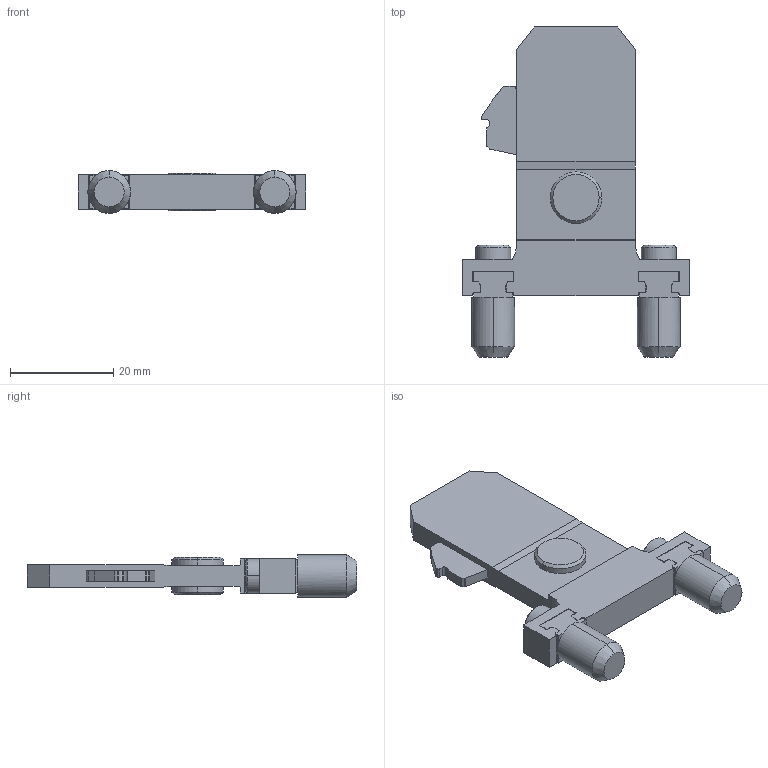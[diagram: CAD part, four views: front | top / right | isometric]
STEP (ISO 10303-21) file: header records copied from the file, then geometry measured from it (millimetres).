
FILE_DESCRIPTION (( 'STEP AP214' ), '1' );
FILE_NAME ('Fronbefestigung Spreizdübel D8_OD52106200.STEP', '2014-07-09T09:25:03', ( '' ), ( '' ), 'SwSTEP 2.0', 'SolidWorks 2013', '' );
FILE_SCHEMA (( 'AUTOMOTIVE_DESIGN' ));
Length unit declared in the file: millimetre
Products named in the file (1): Fronbefestigung Spreizdübel D8_OD52106200
Bounding box: 44 x 63.8 x 8.25 mm (x, y, z)
Volume: 8351.2 mm3; surface area: 4905.8 mm2
Topology: 1 solids, 1 shells, 177 faces, 510 edges, 324 vertices
Faces by surface type: plane 129, cylinder 36, cone 12
Entity records: 5798 total; most frequent: ORIENTED_EDGE 1020, CARTESIAN_POINT 1012, DIRECTION 978, EDGE_CURVE 510, VECTOR 398, LINE 398, VERTEX_POINT 324, AXIS2_PLACEMENT_3D 290
